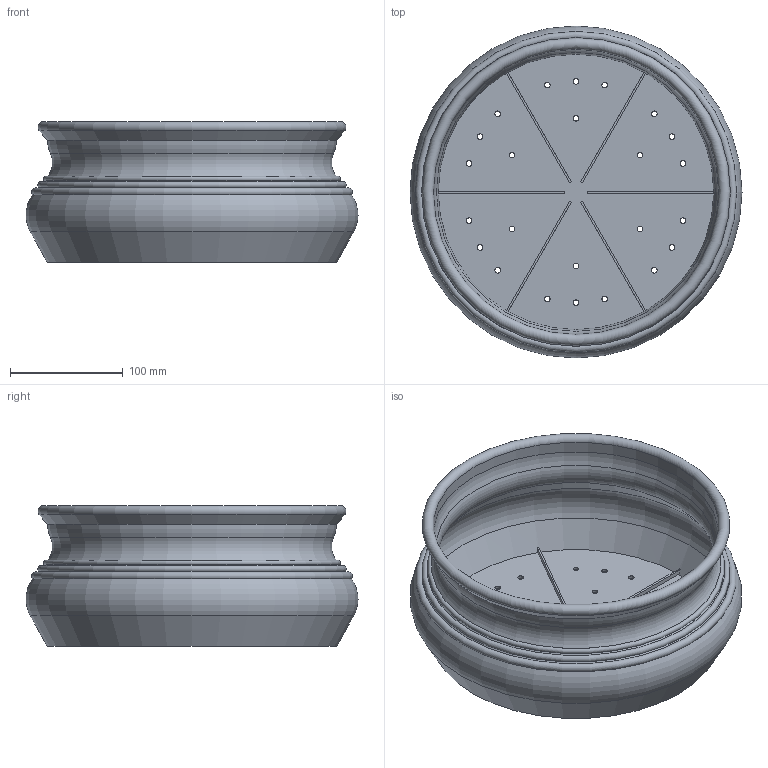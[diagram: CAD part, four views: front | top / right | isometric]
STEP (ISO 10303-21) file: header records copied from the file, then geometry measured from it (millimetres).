
FILE_DESCRIPTION(/* description */ (''),/* implementation_level */ '2;1');
FILE_NAME(/* name */ 'LR2406-S17-H125-D300_step.step',/* time_stamp */ '2024-02-01T11:03:16+01:00',/* author */ (''),/* organization */ (''),/* preprocessor_version */ 'ST-DEVELOPER v20',/* originating_system */ 'Autodesk Translation Framework v12.20.1.177',/* authorisation */ '');
FILE_SCHEMA (('AUTOMOTIVE_DESIGN { 1 0 10303 214 3 1 1 }'));
Length unit declared in the file: millimetre
Products named in the file (1): LR2406-S17-H125-D300
Bounding box: 294.71 x 294.71 x 125 mm (x, y, z)
Volume: 404472.2 mm3; surface area: 352071.1 mm2
Topology: 1 solids, 1 shells, 68 faces, 181 edges, 115 vertices
Faces by surface type: cylinder 31, plane 20, torus 10, cone 7
Full cylindrical faces by diameter (mm): 5 x24, 253.36 x1
Entity records: 2286 total; most frequent: DIRECTION 420, CARTESIAN_POINT 365, ORIENTED_EDGE 362, EDGE_CURVE 181, AXIS2_PLACEMENT_3D 170, EDGE_LOOP 116, VERTEX_POINT 115, CIRCLE 101
